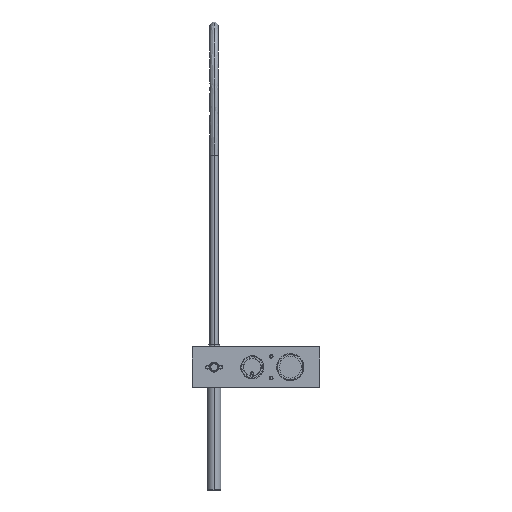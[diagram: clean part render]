
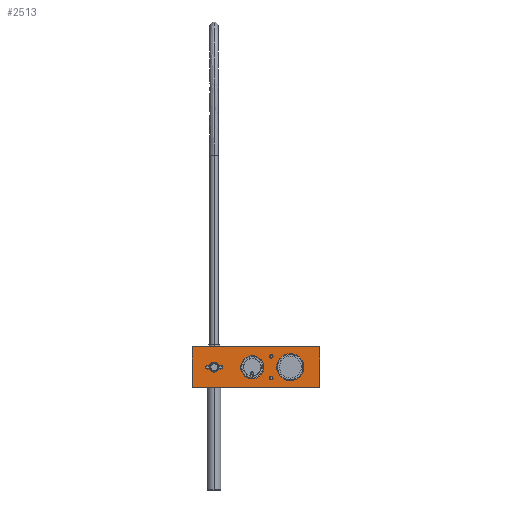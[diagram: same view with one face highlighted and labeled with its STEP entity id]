
A CAD part, front view. The second image highlights one B-rep face of the part: STEP entity #2513.
In plain terms, the highlighted planar face has unit normal (0, -1, 0).
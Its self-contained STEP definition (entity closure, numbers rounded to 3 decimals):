
#2334=DIRECTION('',(-1.,0.,0.));
#2335=VECTOR('',#2334,235.);
#2336=CARTESIAN_POINT('',(54.5,13.9,-37.5));
#2337=LINE('',#2336,#2335);
#2338=DIRECTION('',(0.,0.,1.));
#2339=VECTOR('',#2338,75.);
#2340=CARTESIAN_POINT('',(-180.5,13.9,-37.5));
#2341=LINE('',#2340,#2339);
#2342=DIRECTION('',(1.,0.,0.));
#2343=VECTOR('',#2342,235.);
#2344=CARTESIAN_POINT('',(-180.5,13.9,37.5));
#2345=LINE('',#2344,#2343);
#2346=DIRECTION('',(0.,0.,-1.));
#2347=VECTOR('',#2346,75.);
#2348=CARTESIAN_POINT('',(54.5,13.9,37.5));
#2349=LINE('',#2348,#2347);
#2458=CARTESIAN_POINT('',(54.5,13.9,-37.5));
#2459=CARTESIAN_POINT('',(-180.5,13.9,-37.5));
#2460=VERTEX_POINT('',#2458);
#2461=VERTEX_POINT('',#2459);
#2462=CARTESIAN_POINT('',(-180.5,13.9,37.5));
#2463=CARTESIAN_POINT('',(54.5,13.9,37.5));
#2464=VERTEX_POINT('',#2462);
#2465=VERTEX_POINT('',#2463);
#2498=CARTESIAN_POINT('',(-63.,13.9,0.));
#2499=DIRECTION('',(0.,1.,0.));
#2500=DIRECTION('',(0.,0.,1.));
#2501=AXIS2_PLACEMENT_3D('',#2498,#2499,#2500);
#2502=PLANE('',#2501);
#2504=ORIENTED_EDGE('',*,*,#2503,.T.);
#2506=ORIENTED_EDGE('',*,*,#2505,.T.);
#2508=ORIENTED_EDGE('',*,*,#2507,.T.);
#2510=ORIENTED_EDGE('',*,*,#2509,.T.);
#2511=EDGE_LOOP('',(#2504,#2506,#2508,#2510));
#2512=FACE_OUTER_BOUND('',#2511,.F.);
#2513=ADVANCED_FACE('',(#2512),#2502,.F.);
#2503=EDGE_CURVE('',#2460,#2461,#2337,.T.);
#2505=EDGE_CURVE('',#2461,#2464,#2341,.T.);
#2507=EDGE_CURVE('',#2464,#2465,#2345,.T.);
#2509=EDGE_CURVE('',#2465,#2460,#2349,.T.);
